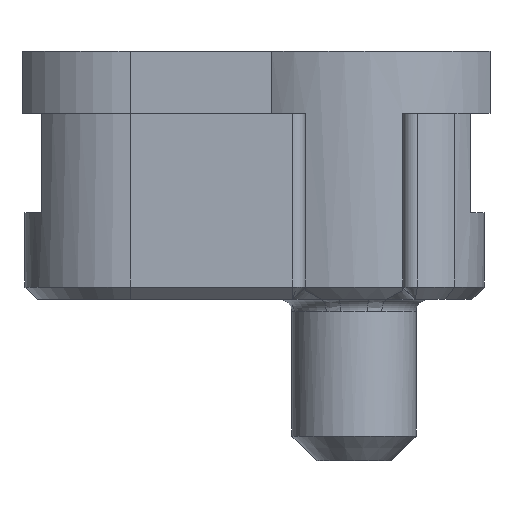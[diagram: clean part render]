
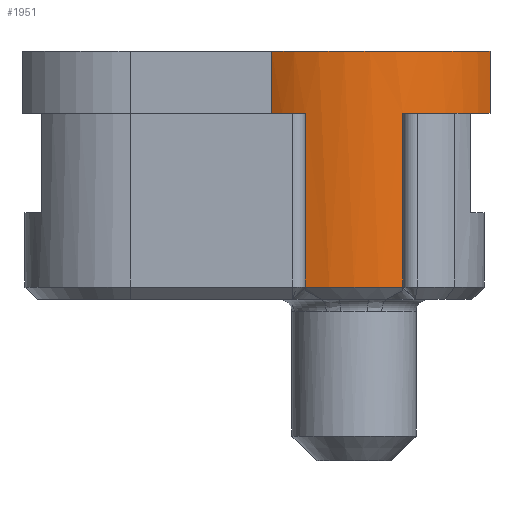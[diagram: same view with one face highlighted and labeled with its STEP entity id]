
A CAD part, front view. The second image highlights one B-rep face of the part: STEP entity #1951.
In plain terms, the highlighted cylindrical face has radius 1.2 mm (diameter 2.4 mm), a partial arc.
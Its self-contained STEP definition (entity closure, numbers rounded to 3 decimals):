
#13 = DIRECTION ( 'NONE',  ( 0., 0., 1. ) ) ;
#116 = VECTOR ( 'NONE', #4385, 1000. ) ;
#137 = AXIS2_PLACEMENT_3D ( 'NONE', #2619, #627, #3726 ) ;
#242 = AXIS2_PLACEMENT_3D ( 'NONE', #1869, #1111, #3807 ) ;
#403 = VERTEX_POINT ( 'NONE', #3528 ) ;
#500 = CARTESIAN_POINT ( 'NONE',  ( 0., 0., -2. ) ) ;
#627 = DIRECTION ( 'NONE',  ( 0., 0., -1. ) ) ;
#649 = LINE ( 'NONE', #810, #2020 ) ;
#810 = CARTESIAN_POINT ( 'NONE',  ( 0.394, -1.134, 500000. ) ) ;
#848 = CARTESIAN_POINT ( 'NONE',  ( 0.394, -1.134, -0.5 ) ) ;
#877 = CARTESIAN_POINT ( 'NONE',  ( -0.663, -1., -2. ) ) ;
#1111 = DIRECTION ( 'NONE',  ( 0., 0., 1. ) ) ;
#1262 = EDGE_CURVE ( 'NONE', #2307, #3510, #3935, .T. ) ;
#1338 = ORIENTED_EDGE ( 'NONE', *, *, #4074, .T. ) ;
#1398 = CARTESIAN_POINT ( 'NONE',  ( 1.096, -0.489, 0. ) ) ;
#1410 = CIRCLE ( 'NONE', #2487, 1.2 ) ;
#1456 = DIRECTION ( 'NONE',  ( 1., 0., 0. ) ) ;
#1466 = ORIENTED_EDGE ( 'NONE', *, *, #2509, .F. ) ;
#1655 = CARTESIAN_POINT ( 'NONE',  ( -0.394, -1.134, -1.9 ) ) ;
#1668 = EDGE_CURVE ( 'NONE', #403, #4695, #1831, .T. ) ;
#1733 = CARTESIAN_POINT ( 'NONE',  ( -0.663, -1., -0.5 ) ) ;
#1831 = LINE ( 'NONE', #2843, #5042 ) ;
#1863 = VERTEX_POINT ( 'NONE', #1398 ) ;
#1869 = CARTESIAN_POINT ( 'NONE',  ( 0., 0., -1.9 ) ) ;
#1948 = DIRECTION ( 'NONE',  ( 0., 0., -1. ) ) ;
#1951 = ADVANCED_FACE ( 'NONE', ( #2049 ), #4312, .T. ) ;
#1967 = DIRECTION ( 'NONE',  ( 1., 0., 0. ) ) ;
#1971 = CARTESIAN_POINT ( 'NONE',  ( -0.663, -1., 0. ) ) ;
#2020 = VECTOR ( 'NONE', #1948, 1000. ) ;
#2049 = FACE_OUTER_BOUND ( 'NONE', #4372, .T. ) ;
#2307 = VERTEX_POINT ( 'NONE', #1733 ) ;
#2373 = EDGE_CURVE ( 'NONE', #4012, #4224, #2490, .T. ) ;
#2487 = AXIS2_PLACEMENT_3D ( 'NONE', #3159, #5036, #4289 ) ;
#2490 = CIRCLE ( 'NONE', #137, 1.2 ) ;
#2509 = EDGE_CURVE ( 'NONE', #3510, #1863, #1410, .T. ) ;
#2619 = CARTESIAN_POINT ( 'NONE',  ( 0., 0., -0.5 ) ) ;
#2745 = AXIS2_PLACEMENT_3D ( 'NONE', #3765, #3794, #1456 ) ;
#2778 = ORIENTED_EDGE ( 'NONE', *, *, #1262, .F. ) ;
#2843 = CARTESIAN_POINT ( 'NONE',  ( -0.394, -1.134, 500000. ) ) ;
#2928 = CIRCLE ( 'NONE', #2745, 1.2 ) ;
#2944 = DIRECTION ( 'NONE',  ( 0., 0., 1. ) ) ;
#2993 = EDGE_CURVE ( 'NONE', #4695, #4134, #3191, .T. ) ;
#3110 = VECTOR ( 'NONE', #2944, 1000. ) ;
#3159 = CARTESIAN_POINT ( 'NONE',  ( 0., 0., 0. ) ) ;
#3170 = LINE ( 'NONE', #3413, #3110 ) ;
#3191 = CIRCLE ( 'NONE', #242, 1.2 ) ;
#3413 = CARTESIAN_POINT ( 'NONE',  ( 1.096, -0.489, -2. ) ) ;
#3510 = VERTEX_POINT ( 'NONE', #1971 ) ;
#3513 = ORIENTED_EDGE ( 'NONE', *, *, #2993, .T. ) ;
#3528 = CARTESIAN_POINT ( 'NONE',  ( -0.394, -1.134, -0.5 ) ) ;
#3726 = DIRECTION ( 'NONE',  ( 1., 0., 0. ) ) ;
#3765 = CARTESIAN_POINT ( 'NONE',  ( 0., 0., -0.5 ) ) ;
#3772 = ORIENTED_EDGE ( 'NONE', *, *, #4093, .F. ) ;
#3794 = DIRECTION ( 'NONE',  ( 0., 0., -1. ) ) ;
#3807 = DIRECTION ( 'NONE',  ( 1., 0., 0. ) ) ;
#3847 = AXIS2_PLACEMENT_3D ( 'NONE', #500, #13, #1967 ) ;
#3935 = LINE ( 'NONE', #877, #116 ) ;
#4012 = VERTEX_POINT ( 'NONE', #4570 ) ;
#4074 = EDGE_CURVE ( 'NONE', #4012, #1863, #3170, .T. ) ;
#4093 = EDGE_CURVE ( 'NONE', #4224, #4134, #649, .T. ) ;
#4134 = VERTEX_POINT ( 'NONE', #4267 ) ;
#4224 = VERTEX_POINT ( 'NONE', #848 ) ;
#4267 = CARTESIAN_POINT ( 'NONE',  ( 0.394, -1.134, -1.9 ) ) ;
#4289 = DIRECTION ( 'NONE',  ( 1., 0., 0. ) ) ;
#4312 = CYLINDRICAL_SURFACE ( 'NONE', #3847, 1.2 ) ;
#4329 = ORIENTED_EDGE ( 'NONE', *, *, #2373, .F. ) ;
#4372 = EDGE_LOOP ( 'NONE', ( #4329, #1338, #1466, #2778, #4415, #4532, #3513, #3772 ) ) ;
#4385 = DIRECTION ( 'NONE',  ( 0., 0., 1. ) ) ;
#4415 = ORIENTED_EDGE ( 'NONE', *, *, #4463, .F. ) ;
#4463 = EDGE_CURVE ( 'NONE', #403, #2307, #2928, .T. ) ;
#4532 = ORIENTED_EDGE ( 'NONE', *, *, #1668, .T. ) ;
#4570 = CARTESIAN_POINT ( 'NONE',  ( 1.096, -0.489, -0.5 ) ) ;
#4695 = VERTEX_POINT ( 'NONE', #1655 ) ;
#4771 = DIRECTION ( 'NONE',  ( 0., 0., -1. ) ) ;
#5036 = DIRECTION ( 'NONE',  ( 0., 0., 1. ) ) ;
#5042 = VECTOR ( 'NONE', #4771, 1000. ) ;
